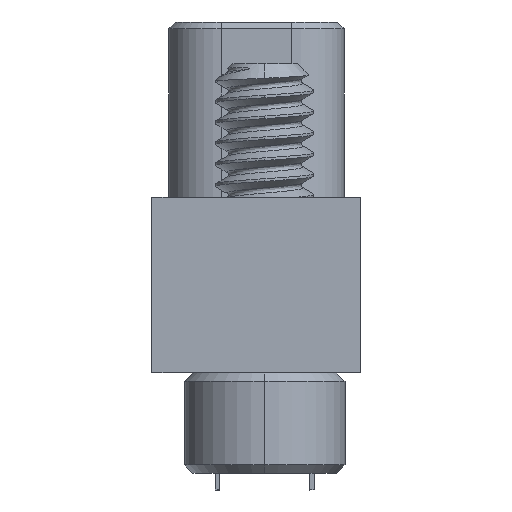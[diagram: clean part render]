
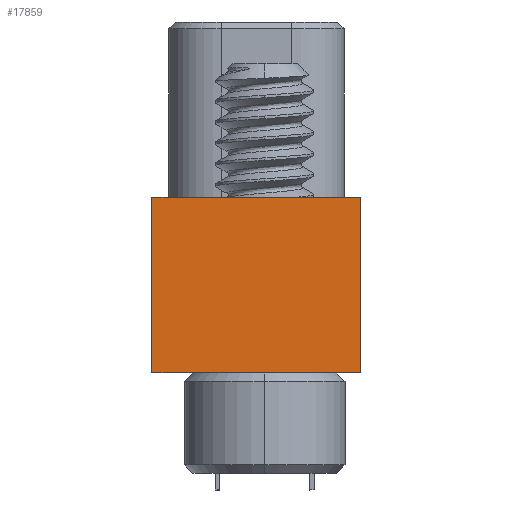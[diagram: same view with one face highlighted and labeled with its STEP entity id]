
A CAD part, left-side view. The second image highlights one B-rep face of the part: STEP entity #17859.
In plain terms, the highlighted planar face has unit normal (-1, 0, 0).
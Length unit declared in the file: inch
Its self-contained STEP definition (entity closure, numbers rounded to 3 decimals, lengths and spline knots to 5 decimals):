
#1324 = EDGE_CURVE ( 'NONE', #4326, #49008, #60204, .T. ) ;
#2594 = VERTEX_POINT ( 'NONE', #2671 ) ;
#2671 = CARTESIAN_POINT ( 'NONE',  ( -0.6625, -0.0575, -0.105 ) ) ;
#4326 = VERTEX_POINT ( 'NONE', #50515 ) ;
#5651 = VECTOR ( 'NONE', #15564, 39.37008 ) ;
#5708 = DIRECTION ( 'NONE',  ( 0., 0., -1. ) ) ;
#6089 = LINE ( 'NONE', #15307, #62967 ) ;
#7006 = ORIENTED_EDGE ( 'NONE', *, *, #7208, .T. ) ;
#7208 = EDGE_CURVE ( 'NONE', #49008, #2594, #32378, .T. ) ;
#11116 = EDGE_LOOP ( 'NONE', ( #29400, #54001, #7006, #49740 ) ) ;
#12362 = PLANE ( 'NONE',  #45398 ) ;
#13560 = VECTOR ( 'NONE', #5708, 39.37008 ) ;
#15307 = CARTESIAN_POINT ( 'NONE',  ( -0.6625, -0.0575, 0. ) ) ;
#15564 = DIRECTION ( 'NONE',  ( 0., 0., -1. ) ) ;
#17859 = ADVANCED_FACE ( 'NONE', ( #62613 ), #12362, .F. ) ;
#22344 = EDGE_CURVE ( 'NONE', #31094, #2594, #50637, .T. ) ;
#26565 = EDGE_CURVE ( 'NONE', #4326, #31094, #6089, .T. ) ;
#27068 = DIRECTION ( 'NONE',  ( 0., -1., 0. ) ) ;
#29400 = ORIENTED_EDGE ( 'NONE', *, *, #26565, .F. ) ;
#30420 = DIRECTION ( 'NONE',  ( 0., -1., 0. ) ) ;
#30670 = VECTOR ( 'NONE', #27068, 39.37008 ) ;
#31094 = VERTEX_POINT ( 'NONE', #54422 ) ;
#31704 = CARTESIAN_POINT ( 'NONE',  ( -0.6625, 0.0675, -0.105 ) ) ;
#32378 = LINE ( 'NONE', #42775, #30670 ) ;
#34693 = CARTESIAN_POINT ( 'NONE',  ( -0.6625, -0.0575, 0.105 ) ) ;
#38944 = DIRECTION ( 'NONE',  ( 1., 0., 0. ) ) ;
#42775 = CARTESIAN_POINT ( 'NONE',  ( -0.6625, -0.0575, -0.105 ) ) ;
#45024 = CARTESIAN_POINT ( 'NONE',  ( -0.6625, 0.0675, 0.105 ) ) ;
#45398 = AXIS2_PLACEMENT_3D ( 'NONE', #34693, #38944, #58946 ) ;
#49008 = VERTEX_POINT ( 'NONE', #31704 ) ;
#49740 = ORIENTED_EDGE ( 'NONE', *, *, #22344, .F. ) ;
#50515 = CARTESIAN_POINT ( 'NONE',  ( -0.6625, 0.0675, 0. ) ) ;
#50637 = LINE ( 'NONE', #56797, #13560 ) ;
#54001 = ORIENTED_EDGE ( 'NONE', *, *, #1324, .T. ) ;
#54422 = CARTESIAN_POINT ( 'NONE',  ( -0.6625, -0.0575, 0. ) ) ;
#56797 = CARTESIAN_POINT ( 'NONE',  ( -0.6625, -0.0575, 0.105 ) ) ;
#58946 = DIRECTION ( 'NONE',  ( 0., 0., -1. ) ) ;
#60204 = LINE ( 'NONE', #45024, #5651 ) ;
#62613 = FACE_OUTER_BOUND ( 'NONE', #11116, .T. ) ;
#62967 = VECTOR ( 'NONE', #30420, 39.37008 ) ;
